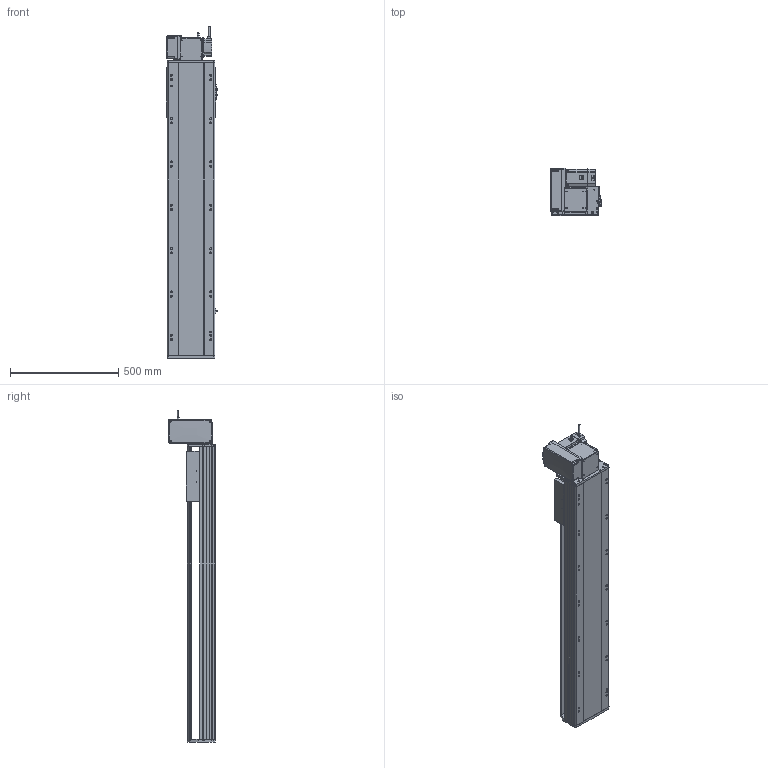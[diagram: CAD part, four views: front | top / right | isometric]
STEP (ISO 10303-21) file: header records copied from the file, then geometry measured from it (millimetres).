
FILE_DESCRIPTION (( 'STEP AP214' ), '1' );
FILE_NAME ('RTB22S-XX-1000-LW-M75-C4.STEP', '2025-12-12T05:54:57', ( '' ), ( '' ), 'SwSTEP 2.0', 'SolidWorks 2018', '' );
FILE_SCHEMA (( 'AUTOMOTIVE_DESIGN' ));
Length unit declared in the file: millimetre
Products named in the file (14): RTB22S-L-011菁釱^RTB22S-XX-XX-LW-M75-C4; RTB22S-GY-017P^RTB22S-LW-々湍釱蚾饜_RTB22S-XX-XX-LW-M75-C4; RTH22-GY-013外置感应片^RTB22S-XX-XX-LW-M75-C4; RTB22S-GY-014--々湍釱^RTB22S-LW-々湍釱蚾饜_RTB22S-XX-XX-LW-M75-C4; RTB22S-GY-008-M75--萇儂啣^RTB22S-LW-々湍釱蚾饜_RTB22S-XX-XX-LW-M75-C4; RTB22S-GY-005P^RTB22S-LW-々湍釱蚾饜_RTB22S-XX-XX-LW-M75-C4; RTB22S-LW-々湍釱蚾饜^RTB22S-XX-XX-LW-M75-C4; 750W萇儂^RTB22S-XX-XX-LW-M75-C4; RTB22S-GY-001耜裔^RTB22S-XX-XX-LW-M75-C4; RTB22S-XX-1000-LW-M75-C4; OMRON EE-SX672 传感器^RTB22S-XX-XX-LW-M75-C4; RTB22S-GY-018P^RTB22S-LW-々湍釱蚾饜_RTB22S-XX-XX-LW-M75-C4; RTB22S-L-004賑釱^RTB22S-XX-XX-LW-M75-C4; RTB22S-GY-007奻裔^RTB22S-XX-XX-LW-M75-C4
Assembly tree (16 placements, depth 3):
  RTB22S-XX-1000-LW-M75-C4
    RTB22S-L-011菁釱^RTB22S-XX-XX-LW-M75-C4
    RTB22S-GY-001耜裔^RTB22S-XX-XX-LW-M75-C4
    750W萇儂^RTB22S-XX-XX-LW-M75-C4
    RTB22S-GY-007奻裔^RTB22S-XX-XX-LW-M75-C4
    RTB22S-L-004賑釱^RTB22S-XX-XX-LW-M75-C4
    RTH22-GY-013外置感应片^RTB22S-XX-XX-LW-M75-C4
    OMRON EE-SX672 传感器^RTB22S-XX-XX-LW-M75-C4  x3
    RTB22S-LW-々湍釱蚾饜^RTB22S-XX-XX-LW-M75-C4
      RTB22S-GY-014--々湍釱^RTB22S-LW-々湍釱蚾饜_RTB22S-XX-XX-LW-M75-C4
      RTB22S-GY-017P^RTB22S-LW-々湍釱蚾饜_RTB22S-XX-XX-LW-M75-C4  x2
      RTB22S-GY-005P^RTB22S-LW-々湍釱蚾饜_RTB22S-XX-XX-LW-M75-C4
      RTB22S-GY-008-M75--萇儂啣^RTB22S-LW-々湍釱蚾饜_RTB22S-XX-XX-LW-M75-C4
      RTB22S-GY-018P^RTB22S-LW-々湍釱蚾饜_RTB22S-XX-XX-LW-M75-C4
Bounding box: 238.5 x 215.5 x 1532.2 mm (x, y, z)
Volume: 21293109.5 mm3; surface area: 2215109.2 mm2
Topology: 15 solids, 15 shells, 1965 faces, 5336 edges, 3422 vertices
Faces by surface type: plane 913, cylinder 610, bspline 296, cone 134, sphere 8, torus 4
Entity records: 52110 total; most frequent: CARTESIAN_POINT 15024, ORIENTED_EDGE 7468, DIRECTION 7168, EDGE_CURVE 3734, AXIS2_PLACEMENT_3D 2522, VERTEX_POINT 2426, VECTOR 2124, LINE 2124
